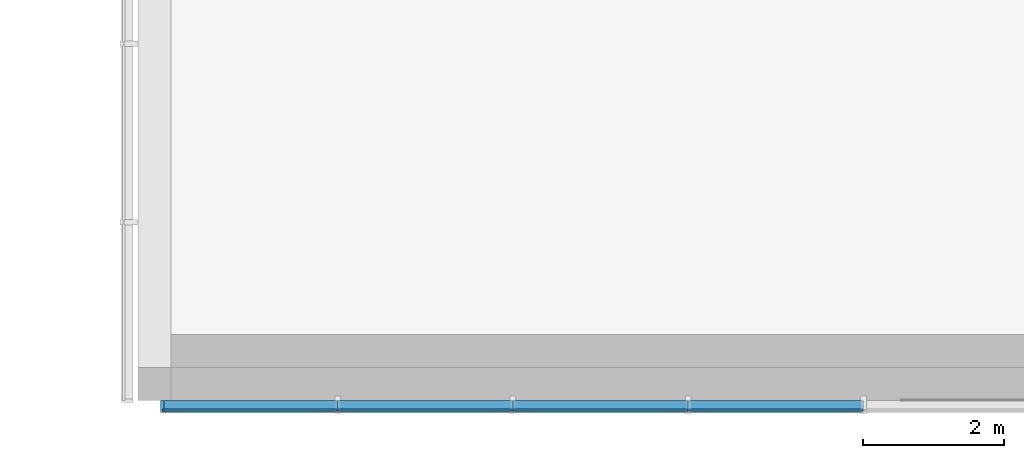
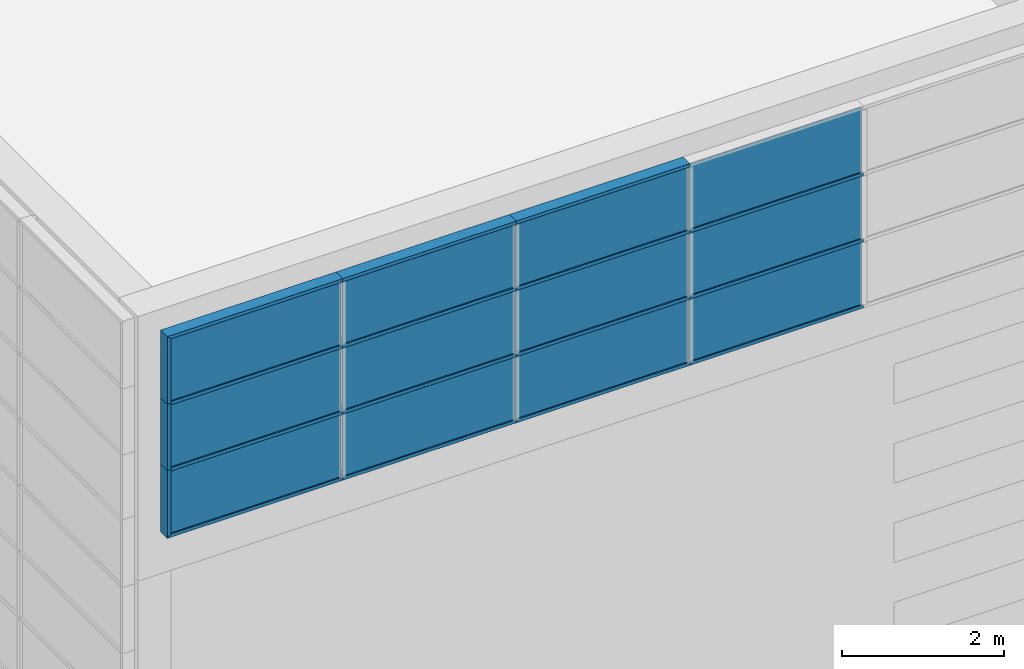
# One storey, part 19 of 105: 30 building element parts, 1 element without a shape of its own.
"""IFC4 building model written with IfcOpenShell, lengths in millimetres."""

from ifc_helpers import new_model, entity, si_unit, converted_unit, derived_unit, direction, frame, origin_with_axes, place, context, subcontext, project, spatial, triangles, material, element, aggregate, save


model = new_model("IFC4")

# Units and contexts
model_context = context("Model", 3, precision=1e-05, world=origin_with_axes(), true_north=direction((0.0, 1.0)))
body_context = subcontext(model_context, "Body", "Model", "MODEL_VIEW")
ifc_project = project(units=[si_unit("LENGTHUNIT", "METRE", prefix="MILLI"), si_unit("AREAUNIT", "SQUARE_METRE"), si_unit("VOLUMEUNIT", "CUBIC_METRE"), converted_unit("PLANEANGLEUNIT", "DEGREE", entity("IfcLengthMeasure", 0.017453), si_unit("PLANEANGLEUNIT", "RADIAN"), dimensions=[0, 0, 0, 0, 0, 0, 0]), si_unit("SOLIDANGLEUNIT", "STERADIAN"), si_unit("MASSUNIT", "GRAM"), si_unit("TIMEUNIT", "SECOND"), si_unit("THERMODYNAMICTEMPERATUREUNIT", "DEGREE_CELSIUS"), si_unit("LUMINOUSINTENSITYUNIT", "LUMEN"), si_unit("POWERUNIT", "WATT"), derived_unit("THERMALTRANSMITTANCEUNIT", [(si_unit("POWERUNIT", "WATT"), 1), (si_unit("THERMODYNAMICTEMPERATUREUNIT", "KELVIN"), -1), (si_unit("AREAUNIT", "SQUARE_METRE"), -1)])], contexts=[model_context])

# Site, building, storey
site_placement = place(None, origin_with_axes())
site = spatial("IfcSite", under=ifc_project, at=site_placement, Name="Default Site", CompositionType="ELEMENT")
building_placement = place(site_placement, origin_with_axes())
building = spatial("IfcBuilding", under=site, at=building_placement, Name="Default Building", CompositionType="ELEMENT")
storey_placement = place(building_placement, origin_with_axes())
storey = spatial("IfcBuildingStorey", under=building, at=storey_placement, Name="OG - Story", CompositionType="ELEMENT", Elevation=0.0)

# Curtain wall, building element parts
curtain_wall_placement = place(storey_placement, origin_with_axes())
curtain_wall = element("IfcCurtainWall", 1, at=curtain_wall_placement, inside=storey, Name="Fassade-002", PredefinedType="NOTDEFINED")
ifc_material_1 = material(Name="Normalglas")
building_element_part_1_placement = place(curtain_wall_placement, frame((33339.077852, -52722.262838, 8660.317768), z_axis=(0.0, 0.0, 1.0), x_axis=(1.0, 0.0, 0.0)))
building_element_part_1 = element("IfcBuildingElementPart", 2, at=building_element_part_1_placement, material=ifc_material_1, Name="Normalglas", PredefinedType="NOTDEFINED", context=body_context, shape_type="Tessellation", body=[
    triangles([(1231.046, 15.0, 995.0), (-1236.045, 15.0, 995.0), (-1236.045, -14.999, 995.0), (1231.046, -14.999, 995.0), (1231.046, 15.0, 5.0), (-1236.045, 15.0, 5.0), (-1236.045, -14.999, 5.0), (1231.046, -14.999, 5.0)], [[1, 2, 3], [1, 3, 4], [1, 5, 6], [1, 6, 2], [2, 6, 7], [2, 7, 3], [4, 3, 7], [4, 7, 8], [5, 1, 4], [5, 4, 8], [6, 5, 8], [6, 8, 7]], closed=False),
])
building_element_part_2_placement = place(curtain_wall_placement, frame((33339.077852, -52722.262838, 8660.317768), z_axis=(0.0, 0.0, 1.0), x_axis=(1.0, 0.0, 0.0)))
building_element_part_2 = element("IfcBuildingElementPart", 3, at=building_element_part_2_placement, material=ifc_material_1, Name="Normalglas", PredefinedType="NOTDEFINED", context=body_context, shape_type="Tessellation", body=[
    triangles([(3713.139, 15.0, 995.0), (1251.046, 15.0, 995.0), (1251.046, -14.999, 995.0), (3713.139, -14.999, 995.0), (3713.139, 15.0, 5.0), (1251.046, 15.0, 5.0), (1251.046, -14.999, 5.0), (3713.139, -14.999, 5.0)], [[1, 2, 3], [1, 3, 4], [1, 5, 6], [1, 6, 2], [2, 6, 7], [2, 7, 3], [4, 3, 7], [4, 7, 8], [5, 1, 4], [5, 4, 8], [6, 5, 8], [6, 8, 7]], closed=False),
])
building_element_part_3_placement = place(curtain_wall_placement, frame((33339.077852, -52722.262838, 8660.317768), z_axis=(0.0, 0.0, 1.0), x_axis=(1.0, 0.0, 0.0)))
building_element_part_3 = element("IfcBuildingElementPart", 4, at=building_element_part_3_placement, material=ifc_material_1, Name="Normalglas", PredefinedType="NOTDEFINED", context=body_context, shape_type="Tessellation", body=[
    triangles([(6195.232, 15.0, 995.0), (3733.139, 15.0, 995.0), (3733.139, -14.999, 995.0), (6195.232, -14.999, 995.0), (6195.232, 15.0, 5.0), (3733.139, 15.0, 5.0), (3733.139, -14.999, 5.0), (6195.232, -14.999, 5.0)], [[1, 2, 3], [1, 3, 4], [1, 5, 6], [1, 6, 2], [2, 6, 7], [2, 7, 3], [4, 3, 7], [4, 7, 8], [5, 1, 4], [5, 4, 8], [6, 5, 8], [6, 8, 7]], closed=False),
])
building_element_part_4_placement = place(curtain_wall_placement, frame((33339.077852, -52722.262838, 8660.317768), z_axis=(0.0, 0.0, 1.0), x_axis=(1.0, 0.0, 0.0)))
building_element_part_4 = element("IfcBuildingElementPart", 5, at=building_element_part_4_placement, material=ifc_material_1, Name="Normalglas", PredefinedType="NOTDEFINED", context=body_context, shape_type="Tessellation", body=[
    triangles([(8677.325, 15.0, 995.0), (6215.232, 15.0, 995.0), (6215.232, -14.999, 995.0), (8677.325, -14.999, 995.0), (8677.325, 15.0, 5.0), (6215.232, 15.0, 5.0), (6215.232, -14.999, 5.0), (8677.325, -14.999, 5.0)], [[1, 2, 3], [1, 3, 4], [1, 5, 6], [1, 6, 2], [2, 6, 7], [2, 7, 3], [4, 3, 7], [4, 7, 8], [5, 1, 4], [5, 4, 8], [6, 5, 8], [6, 8, 7]], closed=False),
])
building_element_part_5_placement = place(curtain_wall_placement, frame((33339.077852, -52722.262838, 8660.317768), z_axis=(0.0, 0.0, 1.0), x_axis=(1.0, 0.0, 0.0)))
building_element_part_5 = element("IfcBuildingElementPart", 6, at=building_element_part_5_placement, material=ifc_material_1, Name="Normalglas", PredefinedType="NOTDEFINED", context=body_context, shape_type="Tessellation", body=[
    triangles([(1231.046, 15.0, 1995.0), (-1236.045, 15.0, 1995.0), (-1236.045, -14.999, 1995.0), (1231.046, -14.999, 1995.0), (1231.046, 15.0, 1005.0), (-1236.045, 15.0, 1005.0), (-1236.045, -14.999, 1005.0), (1231.046, -14.999, 1005.0)], [[1, 2, 3], [1, 3, 4], [1, 5, 6], [1, 6, 2], [2, 6, 7], [2, 7, 3], [4, 3, 7], [4, 7, 8], [5, 1, 4], [5, 4, 8], [6, 5, 8], [6, 8, 7]], closed=False),
])
building_element_part_6_placement = place(curtain_wall_placement, frame((33339.077852, -52722.262838, 8660.317768), z_axis=(0.0, 0.0, 1.0), x_axis=(1.0, 0.0, 0.0)))
building_element_part_6 = element("IfcBuildingElementPart", 7, at=building_element_part_6_placement, material=ifc_material_1, Name="Normalglas", PredefinedType="NOTDEFINED", context=body_context, shape_type="Tessellation", body=[
    triangles([(3713.139, 15.0, 1995.0), (1251.046, 15.0, 1995.0), (1251.046, -14.999, 1995.0), (3713.139, -14.999, 1995.0), (3713.139, 15.0, 1005.0), (1251.046, 15.0, 1005.0), (1251.046, -14.999, 1005.0), (3713.139, -14.999, 1005.0)], [[1, 2, 3], [1, 3, 4], [1, 5, 6], [1, 6, 2], [2, 6, 7], [2, 7, 3], [4, 3, 7], [4, 7, 8], [5, 1, 4], [5, 4, 8], [6, 5, 8], [6, 8, 7]], closed=False),
])
building_element_part_7_placement = place(curtain_wall_placement, frame((33339.077852, -52722.262838, 8660.317768), z_axis=(0.0, 0.0, 1.0), x_axis=(1.0, 0.0, 0.0)))
building_element_part_7 = element("IfcBuildingElementPart", 8, at=building_element_part_7_placement, material=ifc_material_1, Name="Normalglas", PredefinedType="NOTDEFINED", context=body_context, shape_type="Tessellation", body=[
    triangles([(6195.232, 15.0, 1995.0), (3733.139, 15.0, 1995.0), (3733.139, -14.999, 1995.0), (6195.232, -14.999, 1995.0), (6195.232, 15.0, 1005.0), (3733.139, 15.0, 1005.0), (3733.139, -14.999, 1005.0), (6195.232, -14.999, 1005.0)], [[1, 2, 3], [1, 3, 4], [1, 5, 6], [1, 6, 2], [2, 6, 7], [2, 7, 3], [4, 3, 7], [4, 7, 8], [5, 1, 4], [5, 4, 8], [6, 5, 8], [6, 8, 7]], closed=False),
])
building_element_part_8_placement = place(curtain_wall_placement, frame((33339.077852, -52722.262838, 8660.317768), z_axis=(0.0, 0.0, 1.0), x_axis=(1.0, 0.0, 0.0)))
building_element_part_8 = element("IfcBuildingElementPart", 9, at=building_element_part_8_placement, material=ifc_material_1, Name="Normalglas", PredefinedType="NOTDEFINED", context=body_context, shape_type="Tessellation", body=[
    triangles([(8677.325, 15.0, 1995.0), (6215.232, 15.0, 1995.0), (6215.232, -14.999, 1995.0), (8677.325, -14.999, 1995.0), (8677.325, 15.0, 1005.0), (6215.232, 15.0, 1005.0), (6215.232, -14.999, 1005.0), (8677.325, -14.999, 1005.0)], [[1, 2, 3], [1, 3, 4], [1, 5, 6], [1, 6, 2], [2, 6, 7], [2, 7, 3], [4, 3, 7], [4, 7, 8], [5, 1, 4], [5, 4, 8], [6, 5, 8], [6, 8, 7]], closed=False),
])
building_element_part_9_placement = place(curtain_wall_placement, frame((33339.077852, -52722.262838, 8660.317768), z_axis=(0.0, 0.0, 1.0), x_axis=(1.0, 0.0, 0.0)))
building_element_part_9 = element("IfcBuildingElementPart", 10, at=building_element_part_9_placement, material=ifc_material_1, Name="Normalglas", PredefinedType="NOTDEFINED", context=body_context, shape_type="Tessellation", body=[
    triangles([(1231.046, 15.0, 2995.0), (-1236.045, 15.0, 2995.0), (-1236.045, -14.999, 2995.0), (1231.046, -14.999, 2995.0), (1231.046, 15.0, 2005.0), (-1236.045, 15.0, 2005.0), (-1236.045, -14.999, 2005.0), (1231.046, -14.999, 2005.0)], [[1, 2, 3], [1, 3, 4], [1, 5, 6], [1, 6, 2], [2, 6, 7], [2, 7, 3], [4, 3, 7], [4, 7, 8], [5, 1, 4], [5, 4, 8], [6, 5, 8], [6, 8, 7]], closed=False),
])
building_element_part_10_placement = place(curtain_wall_placement, frame((33339.077852, -52722.262838, 8660.317768), z_axis=(0.0, 0.0, 1.0), x_axis=(1.0, 0.0, 0.0)))
building_element_part_10 = element("IfcBuildingElementPart", 11, at=building_element_part_10_placement, material=ifc_material_1, Name="Normalglas", PredefinedType="NOTDEFINED", context=body_context, shape_type="Tessellation", body=[
    triangles([(3713.139, 15.0, 2995.0), (1251.046, 15.0, 2995.0), (1251.046, -14.999, 2995.0), (3713.139, -14.999, 2995.0), (3713.139, 15.0, 2005.0), (1251.046, 15.0, 2005.0), (1251.046, -14.999, 2005.0), (3713.139, -14.999, 2005.0)], [[1, 2, 3], [1, 3, 4], [1, 5, 6], [1, 6, 2], [2, 6, 7], [2, 7, 3], [4, 3, 7], [4, 7, 8], [5, 1, 4], [5, 4, 8], [6, 5, 8], [6, 8, 7]], closed=False),
])
building_element_part_11_placement = place(curtain_wall_placement, frame((33339.077852, -52722.262838, 8660.317768), z_axis=(0.0, 0.0, 1.0), x_axis=(1.0, 0.0, 0.0)))
building_element_part_11 = element("IfcBuildingElementPart", 12, at=building_element_part_11_placement, material=ifc_material_1, Name="Normalglas", PredefinedType="NOTDEFINED", context=body_context, shape_type="Tessellation", body=[
    triangles([(6195.232, 15.0, 2995.0), (3733.139, 15.0, 2995.0), (3733.139, -14.999, 2995.0), (6195.232, -14.999, 2995.0), (6195.232, 15.0, 2005.0), (3733.139, 15.0, 2005.0), (3733.139, -14.999, 2005.0), (6195.232, -14.999, 2005.0)], [[1, 2, 3], [1, 3, 4], [1, 5, 6], [1, 6, 2], [2, 6, 7], [2, 7, 3], [4, 3, 7], [4, 7, 8], [5, 1, 4], [5, 4, 8], [6, 5, 8], [6, 8, 7]], closed=False),
])
building_element_part_12_placement = place(curtain_wall_placement, frame((33339.077852, -52722.262838, 8660.317768), z_axis=(0.0, 0.0, 1.0), x_axis=(1.0, 0.0, 0.0)))
building_element_part_12 = element("IfcBuildingElementPart", 13, at=building_element_part_12_placement, material=ifc_material_1, Name="Normalglas", PredefinedType="NOTDEFINED", context=body_context, shape_type="Tessellation", body=[
    triangles([(8677.325, 15.0, 2995.0), (6215.232, 15.0, 2995.0), (6215.232, -14.999, 2995.0), (8677.325, -14.999, 2995.0), (8677.325, 15.0, 2005.0), (6215.232, 15.0, 2005.0), (6215.232, -14.999, 2005.0), (8677.325, -14.999, 2005.0)], [[1, 2, 3], [1, 3, 4], [1, 5, 6], [1, 6, 2], [2, 6, 7], [2, 7, 3], [4, 3, 7], [4, 7, 8], [5, 1, 4], [5, 4, 8], [6, 5, 8], [6, 8, 7]], closed=False),
])
ifc_material_2 = material(Name="Blech")
building_element_part_13_placement = place(curtain_wall_placement, frame((33339.077852, -52722.262838, 8660.317768), z_axis=(0.0, 0.0, 1.0), x_axis=(1.0, 0.0, 0.0)))
building_element_part_13 = element("IfcBuildingElementPart", 14, at=building_element_part_13_placement, material=ifc_material_2, Name="Blech", PredefinedType="NOTDEFINED", context=body_context, shape_type="Tessellation", body=[
    triangles([(1241.046, 15.0, 25.0), (1241.046, 133.0, 25.0), (1241.046, 15.0, 5.0), (1241.046, 133.0, -24.999), (1241.046, -14.999, 5.0), (1241.046, -34.999, -24.999), (1241.046, -14.999, 25.0), (1241.046, -34.999, 25.0), (-1236.045, 15.0, 5.0), (-1236.045, -14.999, 5.0), (-1216.045, -14.999, 25.0), (-1216.045, -34.999, 25.0), (-1266.045, -34.999, -24.999), (-1266.045, 133.0, -24.999), (-1216.045, 133.0, 25.0), (-1216.045, 15.0, 25.0)], [[1, 2, 3], [3, 2, 4], [3, 4, 5], [5, 4, 6], [5, 6, 7], [7, 6, 8], [5, 3, 9], [5, 9, 10], [11, 7, 5], [11, 5, 10], [7, 11, 12], [7, 12, 8], [6, 8, 12], [6, 12, 13], [4, 6, 13], [4, 13, 14], [2, 4, 14], [2, 14, 15], [16, 1, 2], [16, 2, 15], [3, 1, 16], [3, 16, 9], [16, 15, 9], [9, 15, 14], [9, 14, 10], [10, 14, 13], [10, 13, 12], [10, 12, 11]], closed=False),
])
building_element_part_14_placement = place(curtain_wall_placement, frame((33339.077852, -52722.262838, 8660.317768), z_axis=(0.0, 0.0, 1.0), x_axis=(1.0, 0.0, 0.0)))
building_element_part_14 = element("IfcBuildingElementPart", 15, at=building_element_part_14_placement, material=ifc_material_2, Name="Blech", PredefinedType="NOTDEFINED", context=body_context, shape_type="Tessellation", body=[
    triangles([(-1216.045, 15.0, 1000.0), (-1216.045, 133.0, 1000.0), (-1236.045, 15.0, 1000.0), (-1266.045, 133.0, 1000.0), (-1236.045, -14.999, 1000.0), (-1266.045, -34.999, 1000.0), (-1216.045, -34.999, 1000.0), (-1216.045, -14.999, 1000.0), (-1236.045, 15.0, 5.0), (-1216.045, 15.0, 25.0), (-1216.045, 133.0, 25.0), (-1266.045, 133.0, -24.999), (-1266.045, -34.999, -24.999), (-1216.045, -34.999, 25.0), (-1216.045, -14.999, 25.0), (-1236.045, -14.999, 5.0)], [[1, 2, 3], [3, 2, 4], [3, 4, 5], [5, 4, 6], [5, 6, 7], [5, 7, 8], [3, 9, 10], [3, 10, 1], [10, 11, 2], [10, 2, 1], [2, 11, 12], [2, 12, 4], [4, 12, 13], [4, 13, 6], [6, 13, 14], [6, 14, 7], [8, 7, 14], [8, 14, 15], [15, 16, 5], [15, 5, 8], [5, 16, 9], [5, 9, 3], [16, 9, 12], [16, 12, 13], [16, 13, 14], [16, 14, 15], [11, 12, 9], [11, 9, 10]], closed=False),
])
building_element_part_15_placement = place(curtain_wall_placement, frame((33339.077852, -52722.262838, 8660.317768), z_axis=(0.0, 0.0, 1.0), x_axis=(1.0, 0.0, 0.0)))
building_element_part_15 = element("IfcBuildingElementPart", 16, at=building_element_part_15_placement, material=ifc_material_2, Name="Blech", PredefinedType="NOTDEFINED", context=body_context, shape_type="Tessellation", body=[
    triangles([(3723.139, 15.0, 25.0), (3723.139, 133.0, 25.0), (3723.139, 15.0, 5.0), (3723.139, 133.0, -24.999), (3723.139, -14.999, 5.0), (3723.139, -34.999, -24.999), (3723.139, -14.999, 25.0), (3723.139, -34.999, 25.0), (1241.046, 15.0, 5.0), (1241.046, -14.999, 5.0), (1241.046, -14.999, 25.0), (1241.046, -34.999, 25.0), (1241.046, -34.999, -24.999), (1241.046, 133.0, -24.999), (1241.046, 133.0, 25.0), (1241.046, 15.0, 25.0)], [[1, 2, 3], [3, 2, 4], [3, 4, 5], [5, 4, 6], [5, 6, 7], [7, 6, 8], [5, 3, 9], [5, 9, 10], [11, 7, 5], [11, 5, 10], [7, 11, 12], [7, 12, 8], [13, 6, 8], [13, 8, 12], [14, 4, 6], [14, 6, 13], [15, 2, 4], [15, 4, 14], [16, 1, 2], [16, 2, 15], [3, 1, 16], [3, 16, 9], [16, 15, 9], [9, 15, 14], [9, 14, 10], [10, 14, 13], [10, 13, 11], [11, 13, 12]], closed=False),
])
building_element_part_16_placement = place(curtain_wall_placement, frame((33339.077852, -52722.262838, 8660.317768), z_axis=(0.0, 0.0, 1.0), x_axis=(1.0, 0.0, 0.0)))
building_element_part_16 = element("IfcBuildingElementPart", 17, at=building_element_part_16_placement, material=ifc_material_2, Name="Blech", PredefinedType="NOTDEFINED", context=body_context, shape_type="Tessellation", body=[
    triangles([(6205.232, 15.0, 25.0), (6205.232, 133.0, 25.0), (6205.232, 15.0, 5.0), (6205.232, 133.0, -24.999), (6205.232, -14.999, 5.0), (6205.232, -34.999, -24.999), (6205.232, -14.999, 25.0), (6205.232, -34.999, 25.0), (3723.139, 15.0, 5.0), (3723.139, -14.999, 5.0), (3723.139, -14.999, 25.0), (3723.139, -34.999, 25.0), (3723.139, -34.999, -24.999), (3723.139, 133.0, -24.999), (3723.139, 133.0, 25.0), (3723.139, 15.0, 25.0)], [[1, 2, 3], [3, 2, 4], [3, 4, 5], [5, 4, 6], [5, 6, 7], [7, 6, 8], [5, 3, 9], [5, 9, 10], [11, 7, 5], [11, 5, 10], [7, 11, 12], [7, 12, 8], [13, 6, 8], [13, 8, 12], [14, 4, 6], [14, 6, 13], [15, 2, 4], [15, 4, 14], [16, 1, 2], [16, 2, 15], [3, 1, 16], [3, 16, 9], [16, 15, 9], [9, 15, 14], [9, 14, 10], [10, 14, 13], [10, 13, 11], [11, 13, 12]], closed=False),
])
building_element_part_17_placement = place(curtain_wall_placement, frame((33339.077852, -52722.262838, 8660.317768), z_axis=(0.0, 0.0, 1.0), x_axis=(1.0, 0.0, 0.0)))
building_element_part_17 = element("IfcBuildingElementPart", 18, at=building_element_part_17_placement, material=ifc_material_2, Name="Blech", PredefinedType="NOTDEFINED", context=body_context, shape_type="Tessellation", body=[
    triangles([(8687.325, 15.0, 25.0), (8687.325, 133.0, 25.0), (8687.325, 15.0, 5.0), (8687.325, 133.0, -24.999), (8687.325, -14.999, 5.0), (8687.325, -34.999, -24.999), (8687.325, -14.999, 25.0), (8687.325, -34.999, 25.0), (6205.232, 15.0, 5.0), (6205.232, -14.999, 5.0), (6205.232, -14.999, 25.0), (6205.232, -34.999, 25.0), (6205.232, -34.999, -24.999), (6205.232, 133.0, -24.999), (6205.232, 133.0, 25.0), (6205.232, 15.0, 25.0)], [[1, 2, 3], [3, 2, 4], [3, 4, 5], [5, 4, 6], [5, 6, 7], [7, 6, 8], [5, 3, 9], [5, 9, 10], [11, 7, 5], [11, 5, 10], [7, 11, 12], [7, 12, 8], [13, 6, 8], [13, 8, 12], [14, 4, 6], [14, 6, 13], [15, 2, 4], [15, 4, 14], [16, 1, 2], [16, 2, 15], [3, 1, 16], [3, 16, 9], [16, 15, 9], [9, 15, 14], [9, 14, 10], [10, 14, 13], [10, 13, 11], [11, 13, 12]], closed=False),
])
building_element_part_18_placement = place(curtain_wall_placement, frame((33339.077852, -52722.262838, 8660.317768), z_axis=(0.0, 0.0, 1.0), x_axis=(1.0, 0.0, 0.0)))
building_element_part_18 = element("IfcBuildingElementPart", 19, at=building_element_part_18_placement, material=ifc_material_2, Name="Blech", PredefinedType="NOTDEFINED", context=body_context, shape_type="Tessellation", body=[
    triangles([(1241.046, 133.0, 1025.0), (1241.046, 15.0, 1025.0), (1241.046, 133.0, 975.0), (1241.046, 15.0, 1005.0), (1241.046, 15.0, 995.0), (1241.046, -14.999, 1005.0), (1241.046, -14.999, 995.0), (1241.046, -14.999, 975.0), (1241.046, -14.999, 1025.0), (1241.046, -34.999, 1025.0), (1241.046, -34.999, 975.0), (1241.046, 15.0, 975.0), (-1216.045, 15.0, 995.0), (-1216.045, 15.0, 975.0), (-1216.045, 133.0, 975.0), (-1216.045, 133.0, 1025.0), (-1216.045, 15.0, 1025.0), (-1216.045, 15.0, 1005.0), (-1216.045, -14.999, 1005.0), (-1216.045, -14.999, 1025.0), (-1216.045, -34.999, 1025.0), (-1216.045, -34.999, 975.0), (-1216.045, -14.999, 975.0), (-1216.045, -14.999, 995.0)], [[1, 2, 3], [3, 2, 4], [3, 4, 5], [5, 4, 6], [5, 6, 7], [8, 9, 10], [8, 10, 11], [3, 5, 12], [12, 5, 13], [12, 13, 14], [12, 14, 15], [12, 15, 3], [3, 15, 16], [3, 16, 1], [2, 1, 16], [2, 16, 17], [2, 17, 18], [2, 18, 4], [4, 18, 19], [4, 19, 6], [9, 6, 19], [9, 19, 20], [20, 21, 10], [20, 10, 9], [10, 21, 22], [10, 22, 11], [23, 8, 11], [23, 11, 22], [7, 8, 23], [7, 23, 24], [5, 7, 24], [5, 24, 13], [15, 14, 16], [16, 14, 13], [16, 13, 18], [18, 13, 24], [18, 24, 19], [20, 23, 22], [20, 22, 21], [16, 18, 17]], closed=False),
])
building_element_part_19_placement = place(curtain_wall_placement, frame((33339.077852, -52722.262838, 8660.317768), z_axis=(0.0, 0.0, 1.0), x_axis=(1.0, 0.0, 0.0)))
building_element_part_19 = element("IfcBuildingElementPart", 20, at=building_element_part_19_placement, material=ifc_material_2, Name="Blech", PredefinedType="NOTDEFINED", context=body_context, shape_type="Tessellation", body=[
    triangles([(-1216.045, 15.0, 2000.0), (-1216.045, 133.0, 2000.0), (-1236.045, 15.0, 2000.0), (-1266.045, 133.0, 2000.0), (-1236.045, -14.999, 2000.0), (-1266.045, -34.999, 2000.0), (-1216.045, -34.999, 2000.0), (-1216.045, -14.999, 2000.0), (-1236.045, 15.0, 1000.0), (-1216.045, 15.0, 1000.0), (-1216.045, 133.0, 1000.0), (-1266.045, 133.0, 1000.0), (-1266.045, -34.999, 1000.0), (-1216.045, -34.999, 1000.0), (-1216.045, -14.999, 1000.0), (-1236.045, -14.999, 1000.0)], [[1, 2, 3], [3, 2, 4], [3, 4, 5], [5, 4, 6], [5, 6, 7], [5, 7, 8], [3, 9, 10], [3, 10, 1], [10, 11, 2], [10, 2, 1], [11, 12, 4], [11, 4, 2], [12, 13, 6], [12, 6, 4], [13, 14, 7], [13, 7, 6], [8, 7, 14], [8, 14, 15], [15, 16, 5], [15, 5, 8], [5, 16, 9], [5, 9, 3], [16, 9, 12], [16, 12, 13], [16, 13, 14], [16, 14, 15], [11, 12, 9], [11, 9, 10]], closed=False),
])
building_element_part_20_placement = place(curtain_wall_placement, frame((33339.077852, -52722.262838, 8660.317768), z_axis=(0.0, 0.0, 1.0), x_axis=(1.0, 0.0, 0.0)))
building_element_part_20 = element("IfcBuildingElementPart", 21, at=building_element_part_20_placement, material=ifc_material_2, Name="Blech", PredefinedType="NOTDEFINED", context=body_context, shape_type="Tessellation", body=[
    triangles([(3723.139, 133.0, 1025.0), (3723.139, 15.0, 1025.0), (3723.139, 133.0, 975.0), (3723.139, 15.0, 1005.0), (3723.139, 15.0, 995.0), (3723.139, -14.999, 1005.0), (3723.139, -14.999, 995.0), (3723.139, -14.999, 975.0), (3723.139, -14.999, 1025.0), (3723.139, -34.999, 1025.0), (3723.139, -34.999, 975.0), (3723.139, 15.0, 975.0), (1241.046, 15.0, 995.0), (1241.046, 15.0, 975.0), (1241.046, 133.0, 975.0), (1241.046, 133.0, 1025.0), (1241.046, 15.0, 1025.0), (1241.046, 15.0, 1005.0), (1241.046, -14.999, 1005.0), (1241.046, -14.999, 1025.0), (1241.046, -34.999, 1025.0), (1241.046, -34.999, 975.0), (1241.046, -14.999, 975.0), (1241.046, -14.999, 995.0)], [[1, 2, 3], [3, 2, 4], [3, 4, 5], [5, 4, 6], [5, 6, 7], [8, 9, 10], [8, 10, 11], [3, 5, 12], [12, 5, 13], [12, 13, 14], [12, 14, 15], [12, 15, 3], [1, 3, 15], [1, 15, 16], [2, 1, 16], [2, 16, 17], [2, 17, 18], [2, 18, 4], [4, 18, 19], [4, 19, 6], [9, 6, 19], [9, 19, 20], [20, 21, 10], [20, 10, 9], [11, 10, 21], [11, 21, 22], [23, 8, 11], [23, 11, 22], [7, 8, 23], [7, 23, 24], [5, 7, 24], [5, 24, 13], [15, 14, 16], [16, 14, 13], [16, 13, 18], [18, 13, 24], [18, 24, 19], [20, 23, 22], [20, 22, 21], [16, 18, 17]], closed=False),
])
building_element_part_21_placement = place(curtain_wall_placement, frame((33339.077852, -52722.262838, 8660.317768), z_axis=(0.0, 0.0, 1.0), x_axis=(1.0, 0.0, 0.0)))
building_element_part_21 = element("IfcBuildingElementPart", 22, at=building_element_part_21_placement, material=ifc_material_2, Name="Blech", PredefinedType="NOTDEFINED", context=body_context, shape_type="Tessellation", body=[
    triangles([(6205.232, 133.0, 1025.0), (6205.232, 15.0, 1025.0), (6205.232, 133.0, 975.0), (6205.232, 15.0, 1005.0), (6205.232, 15.0, 995.0), (6205.232, -14.999, 1005.0), (6205.232, -14.999, 995.0), (6205.232, -14.999, 975.0), (6205.232, -14.999, 1025.0), (6205.232, -34.999, 1025.0), (6205.232, -34.999, 975.0), (6205.232, 15.0, 975.0), (3723.139, 15.0, 995.0), (3723.139, 15.0, 975.0), (3723.139, 133.0, 975.0), (3723.139, 133.0, 1025.0), (3723.139, 15.0, 1025.0), (3723.139, 15.0, 1005.0), (3723.139, -14.999, 1005.0), (3723.139, -14.999, 1025.0), (3723.139, -34.999, 1025.0), (3723.139, -34.999, 975.0), (3723.139, -14.999, 975.0), (3723.139, -14.999, 995.0)], [[1, 2, 3], [3, 2, 4], [3, 4, 5], [5, 4, 6], [5, 6, 7], [8, 9, 10], [8, 10, 11], [3, 5, 12], [12, 5, 13], [12, 13, 14], [12, 14, 15], [12, 15, 3], [1, 3, 15], [1, 15, 16], [2, 1, 16], [2, 16, 17], [2, 17, 18], [2, 18, 4], [4, 18, 19], [4, 19, 6], [9, 6, 19], [9, 19, 20], [20, 21, 10], [20, 10, 9], [11, 10, 21], [11, 21, 22], [23, 8, 11], [23, 11, 22], [7, 8, 23], [7, 23, 24], [5, 7, 24], [5, 24, 13], [15, 14, 16], [16, 14, 13], [16, 13, 18], [18, 13, 24], [18, 24, 19], [20, 23, 22], [20, 22, 21], [16, 18, 17]], closed=False),
])
building_element_part_22_placement = place(curtain_wall_placement, frame((33339.077852, -52722.262838, 8660.317768), z_axis=(0.0, 0.0, 1.0), x_axis=(1.0, 0.0, 0.0)))
building_element_part_22 = element("IfcBuildingElementPart", 23, at=building_element_part_22_placement, material=ifc_material_2, Name="Blech", PredefinedType="NOTDEFINED", context=body_context, shape_type="Tessellation", body=[
    triangles([(8687.325, 133.0, 1025.0), (8687.325, 15.0, 1025.0), (8687.325, 133.0, 975.0), (8687.325, 15.0, 1005.0), (8687.325, 15.0, 995.0), (8687.325, -14.999, 1005.0), (8687.325, -14.999, 995.0), (8687.325, -14.999, 975.0), (8687.325, -14.999, 1025.0), (8687.325, -34.999, 1025.0), (8687.325, -34.999, 975.0), (8687.325, 15.0, 975.0), (6205.232, 15.0, 995.0), (6205.232, 15.0, 975.0), (6205.232, 133.0, 975.0), (6205.232, 133.0, 1025.0), (6205.232, 15.0, 1025.0), (6205.232, 15.0, 1005.0), (6205.232, -14.999, 1005.0), (6205.232, -14.999, 1025.0), (6205.232, -34.999, 1025.0), (6205.232, -34.999, 975.0), (6205.232, -14.999, 975.0), (6205.232, -14.999, 995.0)], [[1, 2, 3], [3, 2, 4], [3, 4, 5], [5, 4, 6], [5, 6, 7], [8, 9, 10], [8, 10, 11], [3, 5, 12], [12, 5, 13], [12, 13, 14], [12, 14, 15], [12, 15, 3], [1, 3, 15], [1, 15, 16], [2, 1, 16], [2, 16, 17], [2, 17, 18], [2, 18, 4], [4, 18, 19], [4, 19, 6], [9, 6, 19], [9, 19, 20], [20, 21, 10], [20, 10, 9], [11, 10, 21], [11, 21, 22], [23, 8, 11], [23, 11, 22], [7, 8, 23], [7, 23, 24], [5, 7, 24], [5, 24, 13], [15, 14, 16], [16, 14, 13], [16, 13, 18], [18, 13, 24], [18, 24, 19], [20, 23, 22], [20, 22, 21], [16, 18, 17]], closed=False),
])
building_element_part_23_placement = place(curtain_wall_placement, frame((33339.077852, -52722.262838, 8660.317768), z_axis=(0.0, 0.0, 1.0), x_axis=(1.0, 0.0, 0.0)))
building_element_part_23 = element("IfcBuildingElementPart", 24, at=building_element_part_23_placement, material=ifc_material_2, Name="Blech", PredefinedType="NOTDEFINED", context=body_context, shape_type="Tessellation", body=[
    triangles([(1241.046, 133.0, 2025.0), (1241.046, 15.0, 2025.0), (1241.046, 133.0, 1975.0), (1241.046, 15.0, 2005.0), (1241.046, 15.0, 1995.0), (1241.046, -14.999, 2005.0), (1241.046, -14.999, 1995.0), (1241.046, -14.999, 1975.0), (1241.046, -14.999, 2025.0), (1241.046, -34.999, 2025.0), (1241.046, -34.999, 1975.0), (1241.046, 15.0, 1975.0), (-1216.045, 15.0, 1995.0), (-1216.045, 15.0, 1975.0), (-1216.045, 133.0, 1975.0), (-1216.045, 133.0, 2025.0), (-1216.045, 15.0, 2025.0), (-1216.045, 15.0, 2005.0), (-1216.045, -14.999, 2005.0), (-1216.045, -14.999, 2025.0), (-1216.045, -34.999, 2025.0), (-1216.045, -34.999, 1975.0), (-1216.045, -14.999, 1975.0), (-1216.045, -14.999, 1995.0)], [[1, 2, 3], [3, 2, 4], [3, 4, 5], [5, 4, 6], [5, 6, 7], [8, 9, 10], [8, 10, 11], [3, 5, 12], [12, 5, 13], [12, 13, 14], [12, 14, 15], [12, 15, 3], [3, 15, 16], [3, 16, 1], [2, 1, 16], [2, 16, 17], [2, 17, 18], [2, 18, 4], [4, 18, 19], [4, 19, 6], [9, 6, 19], [9, 19, 20], [20, 21, 10], [20, 10, 9], [10, 21, 22], [10, 22, 11], [23, 8, 11], [23, 11, 22], [7, 8, 23], [7, 23, 24], [5, 7, 24], [5, 24, 13], [15, 14, 16], [16, 14, 13], [16, 13, 18], [18, 13, 24], [18, 24, 19], [20, 23, 22], [20, 22, 21], [16, 18, 17]], closed=False),
])
building_element_part_24_placement = place(curtain_wall_placement, frame((33339.077852, -52722.262838, 8660.317768), z_axis=(0.0, 0.0, 1.0), x_axis=(1.0, 0.0, 0.0)))
building_element_part_24 = element("IfcBuildingElementPart", 25, at=building_element_part_24_placement, material=ifc_material_2, Name="Blech", PredefinedType="NOTDEFINED", context=body_context, shape_type="Tessellation", body=[
    triangles([(1241.046, 15.0, 2975.0), (1241.046, 133.0, 2975.0), (1241.046, 15.0, 2995.0), (1241.046, 133.0, 3025.0), (1241.046, -14.999, 2995.0), (1241.046, -34.999, 3025.0), (1241.046, -14.999, 2975.0), (1241.046, -34.999, 2975.0), (-1236.045, 15.0, 2995.0), (-1216.045, 15.0, 2975.0), (-1216.045, 133.0, 2975.0), (-1266.045, 133.0, 3025.0), (-1266.045, -34.999, 3025.0), (-1216.045, -34.999, 2975.0), (-1216.045, -14.999, 2975.0), (-1236.045, -14.999, 2995.0)], [[1, 2, 3], [3, 2, 4], [3, 4, 5], [5, 4, 6], [5, 6, 7], [7, 6, 8], [3, 9, 10], [3, 10, 1], [10, 11, 2], [10, 2, 1], [2, 11, 12], [2, 12, 4], [4, 12, 13], [4, 13, 6], [6, 13, 14], [6, 14, 8], [7, 8, 14], [7, 14, 15], [15, 16, 5], [15, 5, 7], [5, 16, 9], [5, 9, 3], [16, 9, 12], [16, 12, 13], [16, 13, 14], [16, 14, 15], [11, 12, 9], [11, 9, 10]], closed=False),
])
building_element_part_25_placement = place(curtain_wall_placement, frame((33339.077852, -52722.262838, 8660.317768), z_axis=(0.0, 0.0, 1.0), x_axis=(1.0, 0.0, 0.0)))
building_element_part_25 = element("IfcBuildingElementPart", 26, at=building_element_part_25_placement, material=ifc_material_2, Name="Blech", PredefinedType="NOTDEFINED", context=body_context, shape_type="Tessellation", body=[
    triangles([(-1216.045, 15.0, 2975.0), (-1216.045, 133.0, 2975.0), (-1236.045, 15.0, 2995.0), (-1266.045, 133.0, 3025.0), (-1236.045, -14.999, 2995.0), (-1266.045, -34.999, 3025.0), (-1216.045, -34.999, 2975.0), (-1216.045, -14.999, 2975.0), (-1236.045, 15.0, 2000.0), (-1216.045, 15.0, 2000.0), (-1216.045, 133.0, 2000.0), (-1266.045, 133.0, 2000.0), (-1266.045, -34.999, 2000.0), (-1216.045, -34.999, 2000.0), (-1216.045, -14.999, 2000.0), (-1236.045, -14.999, 2000.0)], [[1, 2, 3], [3, 2, 4], [3, 4, 5], [5, 4, 6], [5, 6, 7], [5, 7, 8], [3, 9, 10], [3, 10, 1], [10, 11, 2], [10, 2, 1], [11, 12, 4], [11, 4, 2], [12, 13, 6], [12, 6, 4], [13, 14, 7], [13, 7, 6], [8, 7, 14], [8, 14, 15], [15, 16, 5], [15, 5, 8], [5, 16, 9], [5, 9, 3], [16, 9, 12], [16, 12, 13], [16, 13, 14], [16, 14, 15], [11, 12, 9], [11, 9, 10]], closed=False),
])
building_element_part_26_placement = place(curtain_wall_placement, frame((33339.077852, -52722.262838, 8660.317768), z_axis=(0.0, 0.0, 1.0), x_axis=(1.0, 0.0, 0.0)))
building_element_part_26 = element("IfcBuildingElementPart", 27, at=building_element_part_26_placement, material=ifc_material_2, Name="Blech", PredefinedType="NOTDEFINED", context=body_context, shape_type="Tessellation", body=[
    triangles([(3723.139, 133.0, 2025.0), (3723.139, 15.0, 2025.0), (3723.139, 133.0, 1975.0), (3723.139, 15.0, 2005.0), (3723.139, 15.0, 1995.0), (3723.139, -14.999, 2005.0), (3723.139, -14.999, 1995.0), (3723.139, -14.999, 1975.0), (3723.139, -14.999, 2025.0), (3723.139, -34.999, 2025.0), (3723.139, -34.999, 1975.0), (3723.139, 15.0, 1975.0), (1241.046, 15.0, 1995.0), (1241.046, 15.0, 1975.0), (1241.046, 133.0, 1975.0), (1241.046, 133.0, 2025.0), (1241.046, 15.0, 2025.0), (1241.046, 15.0, 2005.0), (1241.046, -14.999, 2005.0), (1241.046, -14.999, 2025.0), (1241.046, -34.999, 2025.0), (1241.046, -34.999, 1975.0), (1241.046, -14.999, 1975.0), (1241.046, -14.999, 1995.0)], [[1, 2, 3], [3, 2, 4], [3, 4, 5], [5, 4, 6], [5, 6, 7], [8, 9, 10], [8, 10, 11], [3, 5, 12], [12, 5, 13], [12, 13, 14], [12, 14, 15], [12, 15, 3], [1, 3, 15], [1, 15, 16], [2, 1, 16], [2, 16, 17], [2, 17, 18], [2, 18, 4], [4, 18, 19], [4, 19, 6], [9, 6, 19], [9, 19, 20], [20, 21, 10], [20, 10, 9], [11, 10, 21], [11, 21, 22], [23, 8, 11], [23, 11, 22], [7, 8, 23], [7, 23, 24], [5, 7, 24], [5, 24, 13], [15, 14, 16], [16, 14, 13], [16, 13, 18], [18, 13, 24], [18, 24, 19], [20, 23, 22], [20, 22, 21], [16, 18, 17]], closed=False),
])
building_element_part_27_placement = place(curtain_wall_placement, frame((33339.077852, -52722.262838, 8660.317768), z_axis=(0.0, 0.0, 1.0), x_axis=(1.0, 0.0, 0.0)))
building_element_part_27 = element("IfcBuildingElementPart", 28, at=building_element_part_27_placement, material=ifc_material_2, Name="Blech", PredefinedType="NOTDEFINED", context=body_context, shape_type="Tessellation", body=[
    triangles([(3723.139, 15.0, 2975.0), (3723.139, 133.0, 2975.0), (3723.139, 15.0, 2995.0), (3723.139, 133.0, 3025.0), (3723.139, -14.999, 2995.0), (3723.139, -34.999, 3025.0), (3723.139, -14.999, 2975.0), (3723.139, -34.999, 2975.0), (1241.046, 15.0, 2995.0), (1241.046, 15.0, 2975.0), (1241.046, 133.0, 2975.0), (1241.046, 133.0, 3025.0), (1241.046, -34.999, 3025.0), (1241.046, -34.999, 2975.0), (1241.046, -14.999, 2975.0), (1241.046, -14.999, 2995.0)], [[1, 2, 3], [3, 2, 4], [3, 4, 5], [5, 4, 6], [5, 6, 7], [7, 6, 8], [3, 9, 10], [3, 10, 1], [10, 11, 2], [10, 2, 1], [11, 12, 4], [11, 4, 2], [12, 13, 6], [12, 6, 4], [13, 14, 8], [13, 8, 6], [7, 8, 14], [7, 14, 15], [15, 16, 5], [15, 5, 7], [5, 16, 9], [5, 9, 3], [10, 11, 9], [9, 11, 12], [9, 12, 16], [16, 12, 13], [16, 13, 15], [15, 13, 14]], closed=False),
])
building_element_part_28_placement = place(curtain_wall_placement, frame((33339.077852, -52722.262838, 8660.317768), z_axis=(0.0, 0.0, 1.0), x_axis=(1.0, 0.0, 0.0)))
building_element_part_28 = element("IfcBuildingElementPart", 29, at=building_element_part_28_placement, material=ifc_material_2, Name="Blech", PredefinedType="NOTDEFINED", context=body_context, shape_type="Tessellation", body=[
    triangles([(6205.232, 133.0, 2025.0), (6205.232, 15.0, 2025.0), (6205.232, 133.0, 1975.0), (6205.232, 15.0, 2005.0), (6205.232, 15.0, 1995.0), (6205.232, -14.999, 2005.0), (6205.232, -14.999, 1995.0), (6205.232, -14.999, 1975.0), (6205.232, -14.999, 2025.0), (6205.232, -34.999, 2025.0), (6205.232, -34.999, 1975.0), (6205.232, 15.0, 1975.0), (3723.139, 15.0, 1995.0), (3723.139, 15.0, 1975.0), (3723.139, 133.0, 1975.0), (3723.139, 133.0, 2025.0), (3723.139, 15.0, 2025.0), (3723.139, 15.0, 2005.0), (3723.139, -14.999, 2005.0), (3723.139, -14.999, 2025.0), (3723.139, -34.999, 2025.0), (3723.139, -34.999, 1975.0), (3723.139, -14.999, 1975.0), (3723.139, -14.999, 1995.0)], [[1, 2, 3], [3, 2, 4], [3, 4, 5], [5, 4, 6], [5, 6, 7], [8, 9, 10], [8, 10, 11], [3, 5, 12], [12, 5, 13], [12, 13, 14], [12, 14, 15], [12, 15, 3], [1, 3, 15], [1, 15, 16], [2, 1, 16], [2, 16, 17], [2, 17, 18], [2, 18, 4], [4, 18, 19], [4, 19, 6], [9, 6, 19], [9, 19, 20], [20, 21, 10], [20, 10, 9], [11, 10, 21], [11, 21, 22], [23, 8, 11], [23, 11, 22], [7, 8, 23], [7, 23, 24], [5, 7, 24], [5, 24, 13], [15, 14, 16], [16, 14, 13], [16, 13, 18], [18, 13, 24], [18, 24, 19], [20, 23, 22], [20, 22, 21], [16, 18, 17]], closed=False),
])
building_element_part_29_placement = place(curtain_wall_placement, frame((33339.077852, -52722.262838, 8660.317768), z_axis=(0.0, 0.0, 1.0), x_axis=(1.0, 0.0, 0.0)))
building_element_part_29 = element("IfcBuildingElementPart", 30, at=building_element_part_29_placement, material=ifc_material_2, Name="Blech", PredefinedType="NOTDEFINED", context=body_context, shape_type="Tessellation", body=[
    triangles([(6205.232, 15.0, 2975.0), (6205.232, 133.0, 2975.0), (6205.232, 15.0, 2995.0), (6205.232, 133.0, 3025.0), (6205.232, -14.999, 2995.0), (6205.232, -34.999, 3025.0), (6205.232, -14.999, 2975.0), (6205.232, -34.999, 2975.0), (3723.139, 15.0, 2995.0), (3723.139, 15.0, 2975.0), (3723.139, 133.0, 2975.0), (3723.139, 133.0, 3025.0), (3723.139, -34.999, 3025.0), (3723.139, -34.999, 2975.0), (3723.139, -14.999, 2975.0), (3723.139, -14.999, 2995.0)], [[1, 2, 3], [3, 2, 4], [3, 4, 5], [5, 4, 6], [5, 6, 7], [7, 6, 8], [3, 9, 10], [3, 10, 1], [10, 11, 2], [10, 2, 1], [11, 12, 4], [11, 4, 2], [12, 13, 6], [12, 6, 4], [13, 14, 8], [13, 8, 6], [7, 8, 14], [7, 14, 15], [15, 16, 5], [15, 5, 7], [5, 16, 9], [5, 9, 3], [10, 11, 9], [9, 11, 12], [9, 12, 16], [16, 12, 13], [16, 13, 15], [15, 13, 14]], closed=False),
])
building_element_part_30_placement = place(curtain_wall_placement, frame((33339.077852, -52722.262838, 8660.317768), z_axis=(0.0, 0.0, 1.0), x_axis=(1.0, 0.0, 0.0)))
building_element_part_30 = element("IfcBuildingElementPart", 31, at=building_element_part_30_placement, material=ifc_material_2, Name="Blech", PredefinedType="NOTDEFINED", context=body_context, shape_type="Tessellation", body=[
    triangles([(8687.325, 133.0, 2025.0), (8687.325, 15.0, 2025.0), (8687.325, 133.0, 1975.0), (8687.325, 15.0, 2005.0), (8687.325, 15.0, 1995.0), (8687.325, -14.999, 2005.0), (8687.325, -14.999, 1995.0), (8687.325, -14.999, 1975.0), (8687.325, -14.999, 2025.0), (8687.325, -34.999, 2025.0), (8687.325, -34.999, 1975.0), (8687.325, 15.0, 1975.0), (6205.232, 15.0, 1995.0), (6205.232, 15.0, 1975.0), (6205.232, 133.0, 1975.0), (6205.232, 133.0, 2025.0), (6205.232, 15.0, 2025.0), (6205.232, 15.0, 2005.0), (6205.232, -14.999, 2005.0), (6205.232, -14.999, 2025.0), (6205.232, -34.999, 2025.0), (6205.232, -34.999, 1975.0), (6205.232, -14.999, 1975.0), (6205.232, -14.999, 1995.0)], [[1, 2, 3], [3, 2, 4], [3, 4, 5], [5, 4, 6], [5, 6, 7], [8, 9, 10], [8, 10, 11], [3, 5, 12], [12, 5, 13], [12, 13, 14], [12, 14, 15], [12, 15, 3], [1, 3, 15], [1, 15, 16], [2, 1, 16], [2, 16, 17], [2, 17, 18], [2, 18, 4], [4, 18, 19], [4, 19, 6], [9, 6, 19], [9, 19, 20], [20, 21, 10], [20, 10, 9], [11, 10, 21], [11, 21, 22], [23, 8, 11], [23, 11, 22], [7, 8, 23], [7, 23, 24], [5, 7, 24], [5, 24, 13], [15, 14, 16], [16, 14, 13], [16, 13, 18], [18, 13, 24], [18, 24, 19], [20, 23, 22], [20, 22, 21], [16, 18, 17]], closed=False),
])
aggregate(curtain_wall, [building_element_part_1, building_element_part_2, building_element_part_3, building_element_part_4, building_element_part_5, building_element_part_6, building_element_part_7, building_element_part_8, building_element_part_9, building_element_part_10, building_element_part_11, building_element_part_12, building_element_part_13, building_element_part_14, building_element_part_15, building_element_part_16, building_element_part_17, building_element_part_18, building_element_part_19, building_element_part_20, building_element_part_21, building_element_part_22, building_element_part_23, building_element_part_24, building_element_part_25, building_element_part_26, building_element_part_27, building_element_part_28, building_element_part_29, building_element_part_30])

save(model, "model.ifc")
